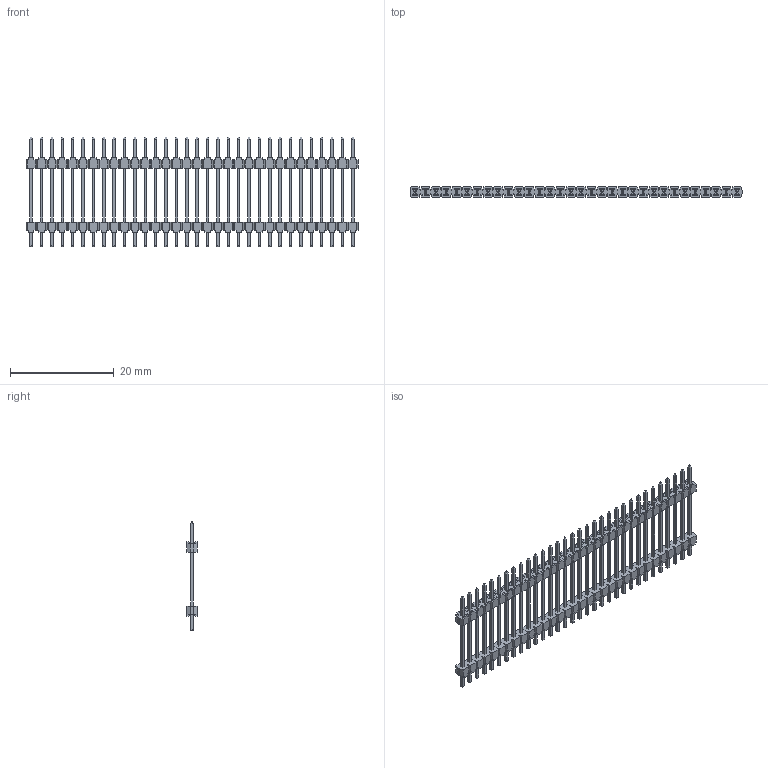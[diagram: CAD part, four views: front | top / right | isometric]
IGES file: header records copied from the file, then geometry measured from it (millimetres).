
Global section: file name: N:\GOLF_VI_2mm_UGII\9514XX_901XX06_AR\951432-9012506-AR.igs; native system: NX V3.0; preprocessor: UGS NX IGES V4.0; date: 20070314.115458; units: millimetre
Bounding box: 64 x 2 x 21.2 mm (x, y, z)
Surface area: 2320.2 mm2 (no closed solid volume)
Topology: 0 solids, 0 shells, 1608 faces, 8729 edges, 8729 vertices
Faces by surface type: bspline 1608
